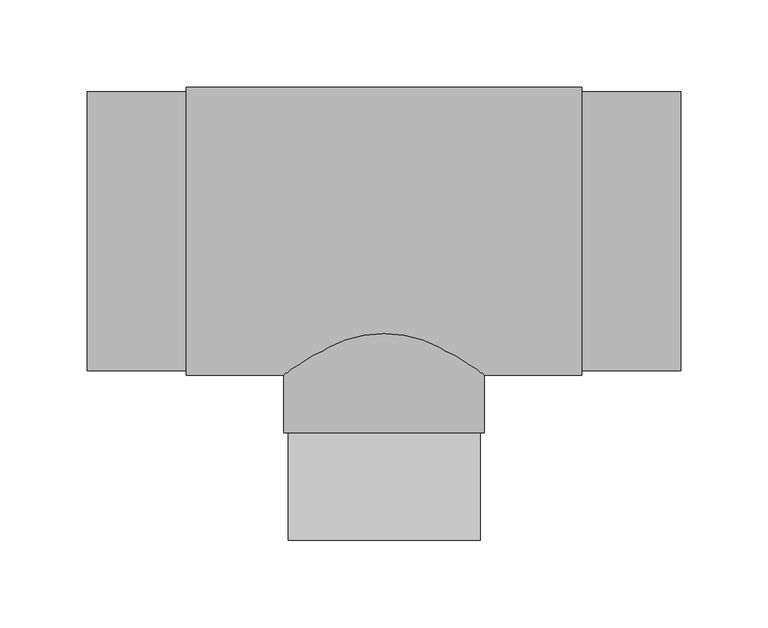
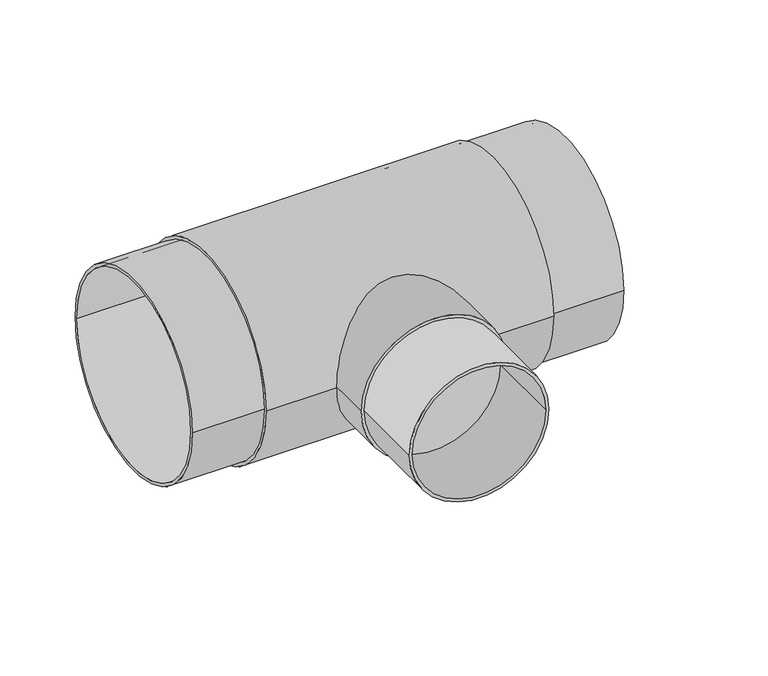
"""IFC4 building model written with IfcOpenShell, lengths in millimetres: pipe fitting geometry, EGB_VASEN_ PPR_Te a tope WXRB300_Te reducida a tope WXRB310 : Te a tope."""

from ifc_helpers import new_model, si_unit, point, frame, origin, origin_2d, place, context, project, spatial, circle_curve, trimmed, segment, composite_curve, outline, extrude, source, transform, mapped, element, save


def pipe_fitting_6ffad898(model_context):
    return source(origin(), model_context, "Body", "SweptSolid", [
        extrude(outline(composite_curve([segment(trimmed(circle_curve(origin_2d(), 55.0), [point((0.0, 55.0))], [point((0.0, -55.0))], False, "CARTESIAN"), True, "CONTINUOUS"), segment(trimmed(circle_curve(origin_2d(), 55.0), [point((0.0, -55.0))], [point((0.0, 55.0))], False, "CARTESIAN"), True, "CONTINUOUS")], self_intersect=False), holes=[composite_curve([segment(trimmed(circle_curve(origin_2d(), 52.5), [point((0.0, 52.5))], [point((0.0, -52.5))], True, "CARTESIAN"), True, "CONTINUOUS"), segment(trimmed(circle_curve(origin_2d(), 52.5), [point((0.0, -52.5))], [point((0.0, 52.5))], True, "CARTESIAN"), True, "CONTINUOUS")], self_intersect=False)]), frame((0.0, -177.0, 0.0), z_axis=(0.0, 1.0, 0.0), x_axis=(0.0, 0.0, 1.0)), (0.0, 0.0, 1.0), 61.5),
        extrude(outline(composite_curve([segment(trimmed(circle_curve(origin_2d(), 57.5), [point((0.0, 57.5))], [point((0.0, -57.5))], False, "CARTESIAN"), True, "CONTINUOUS"), segment(trimmed(circle_curve(origin_2d(), 57.5), [point((0.0, -57.5))], [point((0.0, 57.5))], False, "CARTESIAN"), True, "CONTINUOUS")], self_intersect=False)), frame((0.0, -115.5, 0.0), z_axis=(0.0, 1.0, 0.0), x_axis=(0.0, 0.0, 1.0)), (0.0, 0.0, 1.0), 115.5),
        extrude(outline(composite_curve([segment(trimmed(circle_curve(origin_2d(), 82.5), [point((-82.5, 0.0))], [point((82.5, 0.0))], False, "CARTESIAN"), True, "CONTINUOUS"), segment(trimmed(circle_curve(origin_2d(), 82.5), [point((82.5, 0.0))], [point((-82.5, 0.0))], False, "CARTESIAN"), True, "CONTINUOUS")], self_intersect=False), holes=[composite_curve([segment(trimmed(circle_curve(origin_2d(), 80.0), [point((-80.0, 0.0))], [point((80.0, 0.0))], True, "CARTESIAN"), True, "CONTINUOUS"), segment(trimmed(circle_curve(origin_2d(), 80.0), [point((80.0, 0.0))], [point((-80.0, 0.0))], True, "CARTESIAN"), True, "CONTINUOUS")], self_intersect=False)]), frame((-113.3333333, 0.0, 0.0), z_axis=(1.0, 0.0, 0.0), x_axis=(0.0, 1.0, 0.0)), (0.0, 0.0, 1.0), 226.6666667),
        extrude(outline(composite_curve([segment(trimmed(circle_curve(origin_2d(), 80.0), [point((-80.0, 0.0))], [point((80.0, 0.0))], False, "CARTESIAN"), True, "CONTINUOUS"), segment(trimmed(circle_curve(origin_2d(), 80.0), [point((80.0, 0.0))], [point((-80.0, 0.0))], False, "CARTESIAN"), True, "CONTINUOUS")], self_intersect=False), holes=[composite_curve([segment(trimmed(circle_curve(origin_2d(), 77.5), [point((-77.5, 0.0))], [point((77.5, 0.0))], True, "CARTESIAN"), True, "CONTINUOUS"), segment(trimmed(circle_curve(origin_2d(), 77.5), [point((77.5, 0.0))], [point((-77.5, 0.0))], True, "CARTESIAN"), True, "CONTINUOUS")], self_intersect=False)]), frame((-170.0, 0.0, 0.0), z_axis=(1.0, 0.0, 0.0), x_axis=(0.0, 1.0, 0.0)), (0.0, 0.0, 1.0), 340.0),
    ])


if __name__ == "__main__":
    model = new_model("IFC4")
    model_context = context("Model", 3, world=origin())
    ifc_project = project(units=[si_unit("LENGTHUNIT", "METRE", prefix="MILLI")], contexts=[model_context])
    site = spatial("IfcSite", under=ifc_project)
    building = spatial("IfcBuilding", under=site)
    placement = place(None, origin())
    pipe_fitting_shape = pipe_fitting_6ffad898(model_context)
    element("IfcPipeFitting", 1, ObjectType="EGB_VASEN_ PPR_Te a tope WXRB300_Te reducida a tope WXRB310 : Te a tope", at=placement, inside=building, context=model_context, shape_type="MappedRepresentation", body=[
        mapped(pipe_fitting_shape, transform((0.0, 0.0, 0.0), x_axis=(1.0, 0.0, 0.0), y_axis=(0.0, 1.0, 0.0), z_axis=(0.0, 0.0, 1.0))),
    ])
    save(model, "model.ifc")
